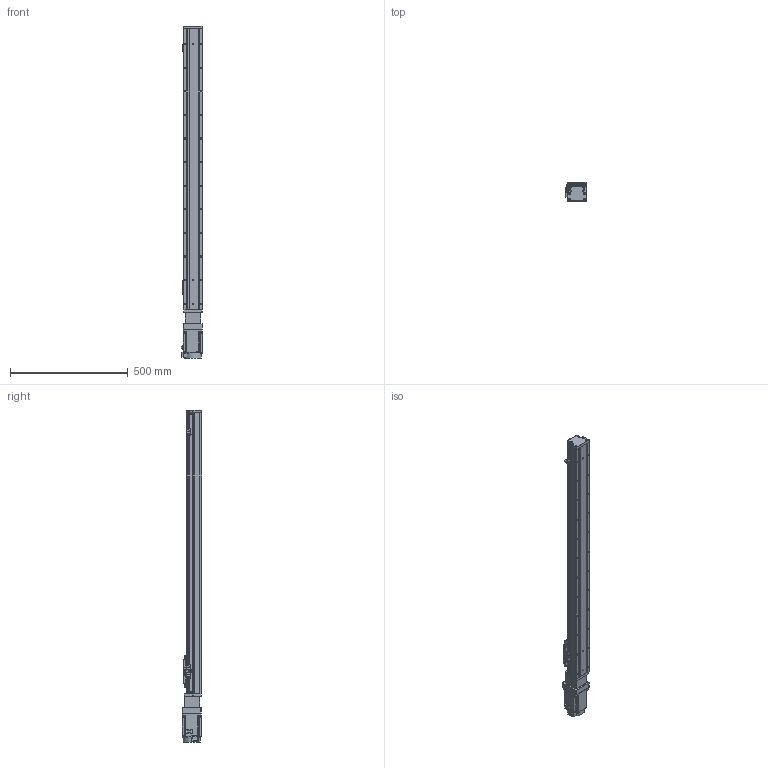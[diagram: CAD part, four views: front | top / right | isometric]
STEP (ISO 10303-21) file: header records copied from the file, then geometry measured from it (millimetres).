
FILE_DESCRIPTION (( 'STEP AP203' ), '1' );
FILE_NAME ('GTH8-1000-BC-M75-C4.step', '2023-02-14T02:18:04', ( '微软用户' ), ( '微软中国' ), 'SwSTEP 2.0', 'SolidWorks 2020', '' );
FILE_SCHEMA (( 'CONFIG_CONTROL_DESIGN' ));
Length unit declared in the file: millimetre
Products named in the file (19): GTH80-006; GTH50-024; hg-kn73j_-s100; GTH80-013; GTH50-023; GTH8-1000-BC-M75-C4; GBT 70.3-M3℅6; GBT96.1-2002 3×0.8; GTH80-022; BTH-M3X5X6; GTH80-001_1000; GBT 70.1-M3℅6; CTHA86-006-1_CTHA86-006-4; GTH80-003; GBT 70.1-M4×16; CTHA86-013; GTH80-004; GTH80-028; CTHA86-027
Assembly tree (60 placements, depth 2):
  GTH8-1000-BC-M75-C4
    GTH80-001_1000
    GTH80-003
    GTH80-004
    GTH80-006
    GTH80-013
    GBT 70.3-M3℅6  x6
    GTH80-022
    GBT 70.1-M3℅6  x14
    GBT 70.1-M4×16  x8
    GTH80-028  x2
    GTH50-024  x3
    GTH50-023  x3
    GBT96.1-2002 3×0.8  x6
    BTH-M3X5X6  x8
    CTHA86-006-1_CTHA86-006-4
    CTHA86-013
    CTHA86-027
    hg-kn73j_-s100
Bounding box: 89.8 x 81.72 x 1407.2 mm (x, y, z)
Volume: 6377027.7 mm3; surface area: 610677 mm2
Topology: 62 solids, 62 shells, 2273 faces, 5246 edges, 3200 vertices
Faces by surface type: plane 1185, cylinder 631, cone 285, torus 162, sphere 8, bspline 2
Entity records: 40229 total; most frequent: DIRECTION 6643, CARTESIAN_POINT 6626, ORIENTED_EDGE 6082, EDGE_CURVE 3041, AXIS2_PLACEMENT_3D 2335, LINE 1973, VECTOR 1973, VERTEX_POINT 1913
